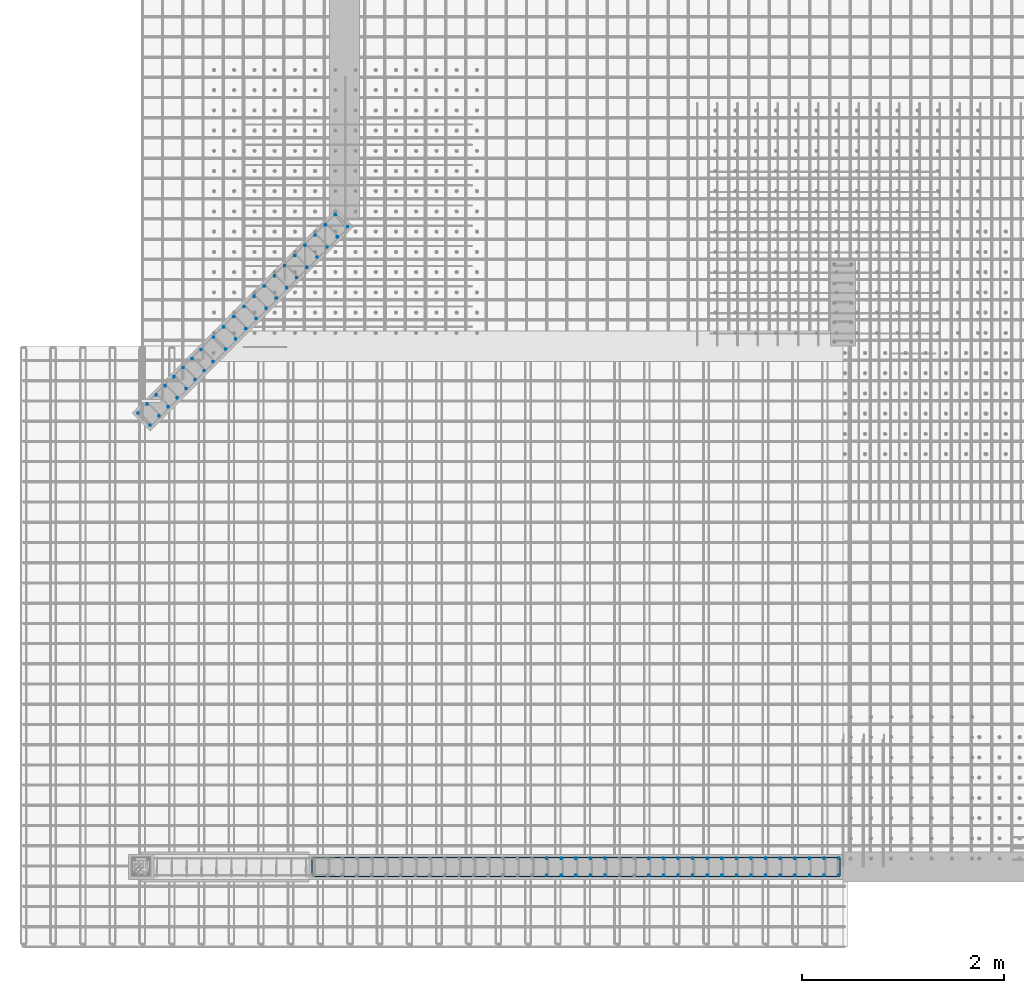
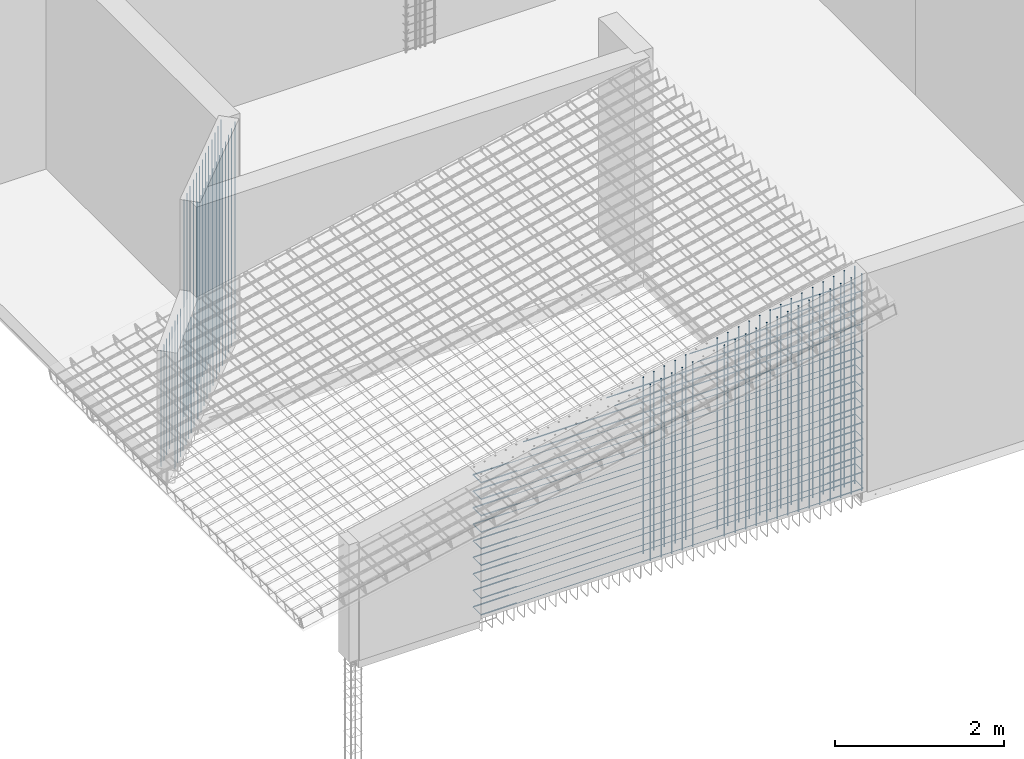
# One storey, part 4 of 17: 27 reinforcing bars.
"""IFC4 building model written with IfcOpenShell, lengths in metres."""

from ifc_helpers import new_model, entity, si_unit, frame, origin_with_axes, place, context, project, spatial, source, transform, mapped, element, save


model = new_model("IFC4")

# Units and contexts
model_context = context("Model", 3, precision=1e-05, world=origin_with_axes())
ifc_project = project(units=[si_unit("LENGTHUNIT", "METRE"), si_unit("AREAUNIT", "SQUARE_METRE"), si_unit("VOLUMEUNIT", "CUBIC_METRE"), si_unit("MASSUNIT", "GRAM", prefix="KILO"), si_unit("TIMEUNIT", "SECOND"), si_unit("PLANEANGLEUNIT", "RADIAN"), si_unit("SOLIDANGLEUNIT", "STERADIAN"), si_unit("THERMODYNAMICTEMPERATUREUNIT", "DEGREE_CELSIUS")], contexts=[model_context])

# Site, building, storey
placement_1 = place(None, origin_with_axes())
site = spatial("IfcSite", under=ifc_project, at=placement_1, Name="Italia", CompositionType="ELEMENT")
building = spatial("IfcBuilding", under=site, at=placement_1, Name="Abitazione", CompositionType="ELEMENT")
storey_placement = place(None, frame((0.0, 0.0, 3.569999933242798), z_axis=(0.0, 0.0, 1.0), x_axis=(1.0, 0.0, 0.0)))
storey = spatial("IfcBuildingStorey", under=building, at=storey_placement, Name="Storey 1", CompositionType="ELEMENT", Elevation=3.569999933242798)

# Reinforcing bars
shared_shape_1 = source(origin_with_axes(), model_context, "Body", "AdvancedSweptSolid", [
    entity("IfcSweptDiskSolid", entity("IfcIndexedPolyCurve", entity("IfcCartesianPointList3D", [[3.11154, 7.24019, 3.57], [3.11154, 7.24019, 6.705]]), [entity("IfcLineIndex", [1, 2])], False), 0.006),
])
placement_2 = place(placement_1, origin_with_axes())
reinforcing_bar_1_placement = place(placement_2, origin_with_axes())
element("IfcReinforcingBar", 1, at=reinforcing_bar_1_placement, inside=storey, BarLength=3.135, CrossSectionArea=0.0001131, NominalDiameter=0.012, context=model_context, shape_type="MappedRepresentation", body=[
    mapped(shared_shape_1, transform((-0.602937, -0.605937, 0.0), x_axis=(1.0, 0.0, 0.0), y_axis=(0.0, 1.0, 0.0), z_axis=(0.0, 0.0, 1.0), scale=1.0)),
    mapped(shared_shape_1, transform((-0.383358, -0.623447, 0.0), x_axis=(1.0, 0.0, 0.0), y_axis=(0.0, 1.0, 0.0), z_axis=(0.0, 0.0, 1.0), scale=1.0)),
    mapped(shared_shape_1, transform((-0.18238, -0.421469, 0.0), x_axis=(1.0, 0.0, 0.0), y_axis=(0.0, 1.0, 0.0), z_axis=(0.0, 0.0, 1.0), scale=1.0)),
    mapped(shared_shape_1, transform((-0.282869, -0.522458, 0.0), x_axis=(1.0, 0.0, 0.0), y_axis=(0.0, 1.0, 0.0), z_axis=(0.0, 0.0, 1.0), scale=1.0)),
    mapped(shared_shape_1, transform((-0.401958, -0.403958, 0.0), x_axis=(1.0, 0.0, 0.0), y_axis=(0.0, 1.0, 0.0), z_axis=(0.0, 0.0, 1.0), scale=1.0)),
    mapped(shared_shape_1, transform((-0.502448, -0.504948, 0.0), x_axis=(1.0, 0.0, 0.0), y_axis=(0.0, 1.0, 0.0), z_axis=(0.0, 0.0, 1.0), scale=1.0)),
    mapped(shared_shape_1, transform((-0.301469, -0.302969, 0.0), x_axis=(1.0, 0.0, 0.0), y_axis=(0.0, 1.0, 0.0), z_axis=(0.0, 0.0, 1.0), scale=1.0)),
    mapped(shared_shape_1, transform((-0.0818901, -0.320479, 0.0), x_axis=(1.0, 0.0, 0.0), y_axis=(0.0, 1.0, 0.0), z_axis=(0.0, 0.0, 1.0), scale=1.0)),
    mapped(shared_shape_1, transform((0.119089, -0.1185, 0.0), x_axis=(1.0, 0.0, 0.0), y_axis=(0.0, 1.0, 0.0), z_axis=(0.0, 0.0, 1.0), scale=1.0)),
    mapped(shared_shape_1, transform((0.0185993, -0.21949, 0.0), x_axis=(1.0, 0.0, 0.0), y_axis=(0.0, 1.0, 0.0), z_axis=(0.0, 0.0, 1.0), scale=1.0)),
    mapped(shared_shape_1, transform((-0.10049, -0.10099, 0.0), x_axis=(1.0, 0.0, 0.0), y_axis=(0.0, 1.0, 0.0), z_axis=(0.0, 0.0, 1.0), scale=1.0)),
    mapped(shared_shape_1, transform((-0.200979, -0.20198, 0.0), x_axis=(1.0, 0.0, 0.0), y_axis=(0.0, 1.0, 0.0), z_axis=(0.0, 0.0, 1.0), scale=1.0)),
    mapped(shared_shape_1, transform((0.0, 0.0, 0.0), x_axis=(1.0, 0.0, 0.0), y_axis=(0.0, 1.0, 0.0), z_axis=(0.0, 0.0, 1.0), scale=1.0)),
    mapped(shared_shape_1, transform((-1.08678, -1.33037, 0.0), x_axis=(1.0, 0.0, 0.0), y_axis=(0.0, 1.0, 0.0), z_axis=(0.0, 0.0, 1.0), scale=1.0)),
    mapped(shared_shape_1, transform((-0.885806, -1.12839, 0.0), x_axis=(1.0, 0.0, 0.0), y_axis=(0.0, 1.0, 0.0), z_axis=(0.0, 0.0, 1.0), scale=1.0)),
    mapped(shared_shape_1, transform((-0.986295, -1.22938, 0.0), x_axis=(1.0, 0.0, 0.0), y_axis=(0.0, 1.0, 0.0), z_axis=(0.0, 0.0, 1.0), scale=1.0)),
    mapped(shared_shape_1, transform((-1.10538, -1.11088, 0.0), x_axis=(1.0, 0.0, 0.0), y_axis=(0.0, 1.0, 0.0), z_axis=(0.0, 0.0, 1.0), scale=1.0)),
    mapped(shared_shape_1, transform((-1.20587, -1.21187, 0.0), x_axis=(1.0, 0.0, 0.0), y_axis=(0.0, 1.0, 0.0), z_axis=(0.0, 0.0, 1.0), scale=1.0)),
    mapped(shared_shape_1, transform((-1.0049, -1.0099, 0.0), x_axis=(1.0, 0.0, 0.0), y_axis=(0.0, 1.0, 0.0), z_axis=(0.0, 0.0, 1.0), scale=1.0)),
    mapped(shared_shape_1, transform((-0.785316, -1.02741, 0.0), x_axis=(1.0, 0.0, 0.0), y_axis=(0.0, 1.0, 0.0), z_axis=(0.0, 0.0, 1.0), scale=1.0)),
    mapped(shared_shape_1, transform((-0.584337, -0.825426, 0.0), x_axis=(1.0, 0.0, 0.0), y_axis=(0.0, 1.0, 0.0), z_axis=(0.0, 0.0, 1.0), scale=1.0)),
    mapped(shared_shape_1, transform((-0.684827, -0.926416, 0.0), x_axis=(1.0, 0.0, 0.0), y_axis=(0.0, 1.0, 0.0), z_axis=(0.0, 0.0, 1.0), scale=1.0)),
    mapped(shared_shape_1, transform((-0.803916, -0.807916, 0.0), x_axis=(1.0, 0.0, 0.0), y_axis=(0.0, 1.0, 0.0), z_axis=(0.0, 0.0, 1.0), scale=1.0)),
    mapped(shared_shape_1, transform((-0.904406, -0.908906, 0.0), x_axis=(1.0, 0.0, 0.0), y_axis=(0.0, 1.0, 0.0), z_axis=(0.0, 0.0, 1.0), scale=1.0)),
    mapped(shared_shape_1, transform((-0.703427, -0.706927, 0.0), x_axis=(1.0, 0.0, 0.0), y_axis=(0.0, 1.0, 0.0), z_axis=(0.0, 0.0, 1.0), scale=1.0)),
    mapped(shared_shape_1, transform((-0.483848, -0.724437, 0.0), x_axis=(1.0, 0.0, 0.0), y_axis=(0.0, 1.0, 0.0), z_axis=(0.0, 0.0, 1.0), scale=1.0)),
])
shared_shape_2 = source(origin_with_axes(), model_context, "Body", "AdvancedSweptSolid", [
    entity("IfcSweptDiskSolid", entity("IfcIndexedPolyCurve", entity("IfcCartesianPointList3D", [[1.78337, 5.90541, 3.57], [1.78337, 5.90541, 5.2453]]), [entity("IfcLineIndex", [1, 2])], False), 0.006),
])
reinforcing_bar_2_placement = place(placement_2, origin_with_axes())
element("IfcReinforcingBar", 2, at=reinforcing_bar_2_placement, inside=storey, BarLength=1.6753, CrossSectionArea=0.0001131, NominalDiameter=0.012, context=model_context, shape_type="MappedRepresentation", body=[
    mapped(shared_shape_2, transform((-0.059195, -0.29767, 0.0), x_axis=(1.0, 0.0, 0.0), y_axis=(0.0, 1.0, 0.0), z_axis=(0.0, 0.0, 1.0), scale=1.0)),
    mapped(shared_shape_2, transform((-0.178284, -0.179171, 0.0), x_axis=(1.0, 0.0, 0.0), y_axis=(0.0, 1.0, 0.0), z_axis=(0.0, 0.0, 1.0), scale=1.0)),
    mapped(shared_shape_2, transform((-0.148337, -0.387256, 0.0), x_axis=(1.0, 0.0, 0.0), y_axis=(0.0, 1.0, 0.0), z_axis=(0.0, 0.0, 1.0), scale=1.0)),
    mapped(shared_shape_2, transform((-0.267426, -0.268757, 0.0), x_axis=(1.0, 0.0, 0.0), y_axis=(0.0, 1.0, 0.0), z_axis=(0.0, 0.0, 1.0), scale=1.0)),
    mapped(shared_shape_2, transform((0.119089, -0.1185, 0.0), x_axis=(1.0, 0.0, 0.0), y_axis=(0.0, 1.0, 0.0), z_axis=(0.0, 0.0, 1.0), scale=1.0)),
    mapped(shared_shape_2, transform((0.0, 0.0, 0.0), x_axis=(1.0, 0.0, 0.0), y_axis=(0.0, 1.0, 0.0), z_axis=(0.0, 0.0, 1.0), scale=1.0)),
    mapped(shared_shape_2, transform((0.029947, -0.208085, 0.0), x_axis=(1.0, 0.0, 0.0), y_axis=(0.0, 1.0, 0.0), z_axis=(0.0, 0.0, 1.0), scale=1.0)),
    mapped(shared_shape_2, transform((-0.0891421, -0.0895853, 0.0), x_axis=(1.0, 0.0, 0.0), y_axis=(0.0, 1.0, 0.0), z_axis=(0.0, 0.0, 1.0), scale=1.0)),
    mapped(shared_shape_2, transform((-0.415763, -0.656013, 0.0), x_axis=(1.0, 0.0, 0.0), y_axis=(0.0, 1.0, 0.0), z_axis=(0.0, 0.0, 1.0), scale=1.0)),
    mapped(shared_shape_2, transform((-0.534852, -0.537513, 0.0), x_axis=(1.0, 0.0, 0.0), y_axis=(0.0, 1.0, 0.0), z_axis=(0.0, 0.0, 1.0), scale=1.0)),
    mapped(shared_shape_2, transform((-0.504905, -0.745598, 0.0), x_axis=(1.0, 0.0, 0.0), y_axis=(0.0, 1.0, 0.0), z_axis=(0.0, 0.0, 1.0), scale=1.0)),
    mapped(shared_shape_2, transform((-0.623994, -0.627099, 0.0), x_axis=(1.0, 0.0, 0.0), y_axis=(0.0, 1.0, 0.0), z_axis=(0.0, 0.0, 1.0), scale=1.0)),
    mapped(shared_shape_2, transform((-0.237479, -0.476842, 0.0), x_axis=(1.0, 0.0, 0.0), y_axis=(0.0, 1.0, 0.0), z_axis=(0.0, 0.0, 1.0), scale=1.0)),
    mapped(shared_shape_2, transform((-0.356568, -0.358342, 0.0), x_axis=(1.0, 0.0, 0.0), y_axis=(0.0, 1.0, 0.0), z_axis=(0.0, 0.0, 1.0), scale=1.0)),
    mapped(shared_shape_2, transform((-0.326621, -0.566427, 0.0), x_axis=(1.0, 0.0, 0.0), y_axis=(0.0, 1.0, 0.0), z_axis=(0.0, 0.0, 1.0), scale=1.0)),
    mapped(shared_shape_2, transform((-0.44571, -0.447927, 0.0), x_axis=(1.0, 0.0, 0.0), y_axis=(0.0, 1.0, 0.0), z_axis=(0.0, 0.0, 1.0), scale=1.0)),
])
shared_shape_3 = source(origin_with_axes(), model_context, "Body", "AdvancedSweptSolid", [
    entity("IfcSweptDiskSolid", entity("IfcIndexedPolyCurve", entity("IfcCartesianPointList3D", [[8.089, 0.874, 3.57], [8.089, 0.874, 6.705]]), [entity("IfcLineIndex", [1, 2])], False), 0.006),
])
reinforcing_bar_3_placement = place(placement_2, origin_with_axes())
element("IfcReinforcingBar", 3, at=reinforcing_bar_3_placement, inside=storey, BarLength=3.135, CrossSectionArea=0.0001131, NominalDiameter=0.012, context=model_context, shape_type="MappedRepresentation", body=[
    mapped(shared_shape_3, transform((0.0, -0.168, 0.0), x_axis=(1.0, 0.0, 0.0), y_axis=(0.0, 1.0, 0.0), z_axis=(0.0, 0.0, 1.0), scale=1.0)),
    mapped(shared_shape_3, transform((0.0, 0.0, 0.0), x_axis=(1.0, 0.0, 0.0), y_axis=(0.0, 1.0, 0.0), z_axis=(0.0, 0.0, 1.0), scale=1.0)),
])
shared_shape_4 = source(origin_with_axes(), model_context, "Body", "AdvancedSweptSolid", [
    entity("IfcSweptDiskSolid", entity("IfcIndexedPolyCurve", entity("IfcCartesianPointList3D", [[7.94461, 0.874, 3.57], [7.94461, 0.874, 6.69101]]), [entity("IfcLineIndex", [1, 2])], False), 0.006),
])
reinforcing_bar_4_placement = place(placement_2, origin_with_axes())
element("IfcReinforcingBar", 4, at=reinforcing_bar_4_placement, inside=storey, BarLength=3.12101, CrossSectionArea=0.0001131, NominalDiameter=0.012, context=model_context, shape_type="MappedRepresentation", body=[
    mapped(shared_shape_4, transform((0.0, -0.168, 0.0), x_axis=(1.0, 0.0, 0.0), y_axis=(0.0, 1.0, 0.0), z_axis=(0.0, 0.0, 1.0), scale=1.0)),
    mapped(shared_shape_4, transform((0.0, 0.0, 0.0), x_axis=(1.0, 0.0, 0.0), y_axis=(0.0, 1.0, 0.0), z_axis=(0.0, 0.0, 1.0), scale=1.0)),
])
shared_shape_5 = source(origin_with_axes(), model_context, "Body", "AdvancedSweptSolid", [
    entity("IfcSweptDiskSolid", entity("IfcIndexedPolyCurve", entity("IfcCartesianPointList3D", [[7.80022, 0.874, 3.57], [7.80022, 0.874, 6.66064]]), [entity("IfcLineIndex", [1, 2])], False), 0.006),
])
reinforcing_bar_5_placement = place(placement_2, origin_with_axes())
element("IfcReinforcingBar", 5, at=reinforcing_bar_5_placement, inside=storey, BarLength=3.09064, CrossSectionArea=0.0001131, NominalDiameter=0.012, context=model_context, shape_type="MappedRepresentation", body=[
    mapped(shared_shape_5, transform((0.0, -0.168, 0.0), x_axis=(1.0, 0.0, 0.0), y_axis=(0.0, 1.0, 0.0), z_axis=(0.0, 0.0, 1.0), scale=1.0)),
    mapped(shared_shape_5, transform((0.0, 0.0, 0.0), x_axis=(1.0, 0.0, 0.0), y_axis=(0.0, 1.0, 0.0), z_axis=(0.0, 0.0, 1.0), scale=1.0)),
])
shared_shape_6 = source(origin_with_axes(), model_context, "Body", "AdvancedSweptSolid", [
    entity("IfcSweptDiskSolid", entity("IfcIndexedPolyCurve", entity("IfcCartesianPointList3D", [[7.65583, 0.874, 3.57], [7.65583, 0.874, 6.63027]]), [entity("IfcLineIndex", [1, 2])], False), 0.006),
])
reinforcing_bar_6_placement = place(placement_2, origin_with_axes())
element("IfcReinforcingBar", 6, at=reinforcing_bar_6_placement, inside=storey, BarLength=3.06027, CrossSectionArea=0.0001131, NominalDiameter=0.012, context=model_context, shape_type="MappedRepresentation", body=[
    mapped(shared_shape_6, transform((0.0, -0.168, 0.0), x_axis=(1.0, 0.0, 0.0), y_axis=(0.0, 1.0, 0.0), z_axis=(0.0, 0.0, 1.0), scale=1.0)),
    mapped(shared_shape_6, transform((0.0, 0.0, 0.0), x_axis=(1.0, 0.0, 0.0), y_axis=(0.0, 1.0, 0.0), z_axis=(0.0, 0.0, 1.0), scale=1.0)),
])
shared_shape_7 = source(origin_with_axes(), model_context, "Body", "AdvancedSweptSolid", [
    entity("IfcSweptDiskSolid", entity("IfcIndexedPolyCurve", entity("IfcCartesianPointList3D", [[7.51144, 0.874, 3.57], [7.51144, 0.874, 6.5999]]), [entity("IfcLineIndex", [1, 2])], False), 0.006),
])
reinforcing_bar_7_placement = place(placement_2, origin_with_axes())
element("IfcReinforcingBar", 7, at=reinforcing_bar_7_placement, inside=storey, BarLength=3.0299, CrossSectionArea=0.0001131, NominalDiameter=0.012, context=model_context, shape_type="MappedRepresentation", body=[
    mapped(shared_shape_7, transform((0.0, -0.168, 0.0), x_axis=(1.0, 0.0, 0.0), y_axis=(0.0, 1.0, 0.0), z_axis=(0.0, 0.0, 1.0), scale=1.0)),
    mapped(shared_shape_7, transform((0.0, 0.0, 0.0), x_axis=(1.0, 0.0, 0.0), y_axis=(0.0, 1.0, 0.0), z_axis=(0.0, 0.0, 1.0), scale=1.0)),
])
shared_shape_8 = source(origin_with_axes(), model_context, "Body", "AdvancedSweptSolid", [
    entity("IfcSweptDiskSolid", entity("IfcIndexedPolyCurve", entity("IfcCartesianPointList3D", [[7.36706, 0.874, 3.57], [7.36706, 0.874, 6.56953]]), [entity("IfcLineIndex", [1, 2])], False), 0.006),
])
reinforcing_bar_8_placement = place(placement_2, origin_with_axes())
element("IfcReinforcingBar", 8, at=reinforcing_bar_8_placement, inside=storey, BarLength=2.99953, CrossSectionArea=0.0001131, NominalDiameter=0.012, context=model_context, shape_type="MappedRepresentation", body=[
    mapped(shared_shape_8, transform((0.0, -0.168, 0.0), x_axis=(1.0, 0.0, 0.0), y_axis=(0.0, 1.0, 0.0), z_axis=(0.0, 0.0, 1.0), scale=1.0)),
    mapped(shared_shape_8, transform((0.0, 0.0, 0.0), x_axis=(1.0, 0.0, 0.0), y_axis=(0.0, 1.0, 0.0), z_axis=(0.0, 0.0, 1.0), scale=1.0)),
])
shared_shape_9 = source(origin_with_axes(), model_context, "Body", "AdvancedSweptSolid", [
    entity("IfcSweptDiskSolid", entity("IfcIndexedPolyCurve", entity("IfcCartesianPointList3D", [[7.22267, 0.874, 3.57], [7.22267, 0.874, 6.53916]]), [entity("IfcLineIndex", [1, 2])], False), 0.006),
])
reinforcing_bar_9_placement = place(placement_2, origin_with_axes())
element("IfcReinforcingBar", 9, at=reinforcing_bar_9_placement, inside=storey, BarLength=2.96916, CrossSectionArea=0.0001131, NominalDiameter=0.012, context=model_context, shape_type="MappedRepresentation", body=[
    mapped(shared_shape_9, transform((0.0, -0.168, 0.0), x_axis=(1.0, 0.0, 0.0), y_axis=(0.0, 1.0, 0.0), z_axis=(0.0, 0.0, 1.0), scale=1.0)),
    mapped(shared_shape_9, transform((0.0, 0.0, 0.0), x_axis=(1.0, 0.0, 0.0), y_axis=(0.0, 1.0, 0.0), z_axis=(0.0, 0.0, 1.0), scale=1.0)),
])
shared_shape_10 = source(origin_with_axes(), model_context, "Body", "AdvancedSweptSolid", [
    entity("IfcSweptDiskSolid", entity("IfcIndexedPolyCurve", entity("IfcCartesianPointList3D", [[7.07828, 0.874, 3.57], [7.07828, 0.874, 6.50879]]), [entity("IfcLineIndex", [1, 2])], False), 0.006),
])
reinforcing_bar_10_placement = place(placement_2, origin_with_axes())
element("IfcReinforcingBar", 10, at=reinforcing_bar_10_placement, inside=storey, BarLength=2.93879, CrossSectionArea=0.0001131, NominalDiameter=0.012, context=model_context, shape_type="MappedRepresentation", body=[
    mapped(shared_shape_10, transform((0.0, -0.168, 0.0), x_axis=(1.0, 0.0, 0.0), y_axis=(0.0, 1.0, 0.0), z_axis=(0.0, 0.0, 1.0), scale=1.0)),
    mapped(shared_shape_10, transform((0.0, 0.0, 0.0), x_axis=(1.0, 0.0, 0.0), y_axis=(0.0, 1.0, 0.0), z_axis=(0.0, 0.0, 1.0), scale=1.0)),
])
shared_shape_11 = source(origin_with_axes(), model_context, "Body", "AdvancedSweptSolid", [
    entity("IfcSweptDiskSolid", entity("IfcIndexedPolyCurve", entity("IfcCartesianPointList3D", [[6.93389, 0.874, 3.57], [6.93389, 0.874, 6.47842]]), [entity("IfcLineIndex", [1, 2])], False), 0.006),
])
reinforcing_bar_11_placement = place(placement_2, origin_with_axes())
element("IfcReinforcingBar", 11, at=reinforcing_bar_11_placement, inside=storey, BarLength=2.90842, CrossSectionArea=0.0001131, NominalDiameter=0.012, context=model_context, shape_type="MappedRepresentation", body=[
    mapped(shared_shape_11, transform((0.0, -0.168, 0.0), x_axis=(1.0, 0.0, 0.0), y_axis=(0.0, 1.0, 0.0), z_axis=(0.0, 0.0, 1.0), scale=1.0)),
    mapped(shared_shape_11, transform((0.0, 0.0, 0.0), x_axis=(1.0, 0.0, 0.0), y_axis=(0.0, 1.0, 0.0), z_axis=(0.0, 0.0, 1.0), scale=1.0)),
])
shared_shape_12 = source(origin_with_axes(), model_context, "Body", "AdvancedSweptSolid", [
    entity("IfcSweptDiskSolid", entity("IfcIndexedPolyCurve", entity("IfcCartesianPointList3D", [[6.7895, 0.874, 3.57], [6.7895, 0.874, 6.44805]]), [entity("IfcLineIndex", [1, 2])], False), 0.006),
])
reinforcing_bar_12_placement = place(placement_2, origin_with_axes())
element("IfcReinforcingBar", 12, at=reinforcing_bar_12_placement, inside=storey, BarLength=2.87805, CrossSectionArea=0.0001131, NominalDiameter=0.012, context=model_context, shape_type="MappedRepresentation", body=[
    mapped(shared_shape_12, transform((0.0, -0.168, 0.0), x_axis=(1.0, 0.0, 0.0), y_axis=(0.0, 1.0, 0.0), z_axis=(0.0, 0.0, 1.0), scale=1.0)),
    mapped(shared_shape_12, transform((0.0, 0.0, 0.0), x_axis=(1.0, 0.0, 0.0), y_axis=(0.0, 1.0, 0.0), z_axis=(0.0, 0.0, 1.0), scale=1.0)),
])
shared_shape_13 = source(origin_with_axes(), model_context, "Body", "AdvancedSweptSolid", [
    entity("IfcSweptDiskSolid", entity("IfcIndexedPolyCurve", entity("IfcCartesianPointList3D", [[6.64511, 0.874, 3.57], [6.64511, 0.874, 6.41768]]), [entity("IfcLineIndex", [1, 2])], False), 0.006),
])
reinforcing_bar_13_placement = place(placement_2, origin_with_axes())
element("IfcReinforcingBar", 13, at=reinforcing_bar_13_placement, inside=storey, BarLength=2.84768, CrossSectionArea=0.0001131, NominalDiameter=0.012, context=model_context, shape_type="MappedRepresentation", body=[
    mapped(shared_shape_13, transform((0.0, -0.168, 0.0), x_axis=(1.0, 0.0, 0.0), y_axis=(0.0, 1.0, 0.0), z_axis=(0.0, 0.0, 1.0), scale=1.0)),
    mapped(shared_shape_13, transform((0.0, 0.0, 0.0), x_axis=(1.0, 0.0, 0.0), y_axis=(0.0, 1.0, 0.0), z_axis=(0.0, 0.0, 1.0), scale=1.0)),
])
shared_shape_14 = source(origin_with_axes(), model_context, "Body", "AdvancedSweptSolid", [
    entity("IfcSweptDiskSolid", entity("IfcIndexedPolyCurve", entity("IfcCartesianPointList3D", [[6.50072, 0.874, 3.57], [6.50072, 0.874, 6.38731]]), [entity("IfcLineIndex", [1, 2])], False), 0.006),
])
reinforcing_bar_14_placement = place(placement_2, origin_with_axes())
element("IfcReinforcingBar", 14, at=reinforcing_bar_14_placement, inside=storey, BarLength=2.81731, CrossSectionArea=0.0001131, NominalDiameter=0.012, context=model_context, shape_type="MappedRepresentation", body=[
    mapped(shared_shape_14, transform((0.0, -0.168, 0.0), x_axis=(1.0, 0.0, 0.0), y_axis=(0.0, 1.0, 0.0), z_axis=(0.0, 0.0, 1.0), scale=1.0)),
    mapped(shared_shape_14, transform((0.0, 0.0, 0.0), x_axis=(1.0, 0.0, 0.0), y_axis=(0.0, 1.0, 0.0), z_axis=(0.0, 0.0, 1.0), scale=1.0)),
])
shared_shape_15 = source(origin_with_axes(), model_context, "Body", "AdvancedSweptSolid", [
    entity("IfcSweptDiskSolid", entity("IfcIndexedPolyCurve", entity("IfcCartesianPointList3D", [[6.35633, 0.874, 3.57], [6.35633, 0.874, 6.35694]]), [entity("IfcLineIndex", [1, 2])], False), 0.006),
])
reinforcing_bar_15_placement = place(placement_2, origin_with_axes())
element("IfcReinforcingBar", 15, at=reinforcing_bar_15_placement, inside=storey, BarLength=2.78694, CrossSectionArea=0.0001131, NominalDiameter=0.012, context=model_context, shape_type="MappedRepresentation", body=[
    mapped(shared_shape_15, transform((0.0, -0.168, 0.0), x_axis=(1.0, 0.0, 0.0), y_axis=(0.0, 1.0, 0.0), z_axis=(0.0, 0.0, 1.0), scale=1.0)),
    mapped(shared_shape_15, transform((0.0, 0.0, 0.0), x_axis=(1.0, 0.0, 0.0), y_axis=(0.0, 1.0, 0.0), z_axis=(0.0, 0.0, 1.0), scale=1.0)),
])
shared_shape_16 = source(origin_with_axes(), model_context, "Body", "AdvancedSweptSolid", [
    entity("IfcSweptDiskSolid", entity("IfcIndexedPolyCurve", entity("IfcCartesianPointList3D", [[6.21194, 0.874, 3.57], [6.21194, 0.874, 6.32657]]), [entity("IfcLineIndex", [1, 2])], False), 0.006),
])
reinforcing_bar_16_placement = place(placement_2, origin_with_axes())
element("IfcReinforcingBar", 16, at=reinforcing_bar_16_placement, inside=storey, BarLength=2.75657, CrossSectionArea=0.0001131, NominalDiameter=0.012, context=model_context, shape_type="MappedRepresentation", body=[
    mapped(shared_shape_16, transform((0.0, -0.168, 0.0), x_axis=(1.0, 0.0, 0.0), y_axis=(0.0, 1.0, 0.0), z_axis=(0.0, 0.0, 1.0), scale=1.0)),
    mapped(shared_shape_16, transform((0.0, 0.0, 0.0), x_axis=(1.0, 0.0, 0.0), y_axis=(0.0, 1.0, 0.0), z_axis=(0.0, 0.0, 1.0), scale=1.0)),
])
shared_shape_17 = source(origin_with_axes(), model_context, "Body", "AdvancedSweptSolid", [
    entity("IfcSweptDiskSolid", entity("IfcIndexedPolyCurve", entity("IfcCartesianPointList3D", [[5.77878, 0.874, 3.57], [5.77878, 0.874, 6.23546]]), [entity("IfcLineIndex", [1, 2])], False), 0.006),
])
reinforcing_bar_17_placement = place(placement_2, origin_with_axes())
element("IfcReinforcingBar", 17, at=reinforcing_bar_17_placement, inside=storey, BarLength=2.66546, CrossSectionArea=0.0001131, NominalDiameter=0.012, context=model_context, shape_type="MappedRepresentation", body=[
    mapped(shared_shape_17, transform((0.0, -0.168, 0.0), x_axis=(1.0, 0.0, 0.0), y_axis=(0.0, 1.0, 0.0), z_axis=(0.0, 0.0, 1.0), scale=1.0)),
    mapped(shared_shape_17, transform((0.0, 0.0, 0.0), x_axis=(1.0, 0.0, 0.0), y_axis=(0.0, 1.0, 0.0), z_axis=(0.0, 0.0, 1.0), scale=1.0)),
])
shared_shape_18 = source(origin_with_axes(), model_context, "Body", "AdvancedSweptSolid", [
    entity("IfcSweptDiskSolid", entity("IfcIndexedPolyCurve", entity("IfcCartesianPointList3D", [[5.63439, 0.874, 3.57], [5.63439, 0.874, 6.20509]]), [entity("IfcLineIndex", [1, 2])], False), 0.006),
])
reinforcing_bar_18_placement = place(placement_2, origin_with_axes())
element("IfcReinforcingBar", 18, at=reinforcing_bar_18_placement, inside=storey, BarLength=2.63509, CrossSectionArea=0.0001131, NominalDiameter=0.012, context=model_context, shape_type="MappedRepresentation", body=[
    mapped(shared_shape_18, transform((0.0, -0.168, 0.0), x_axis=(1.0, 0.0, 0.0), y_axis=(0.0, 1.0, 0.0), z_axis=(0.0, 0.0, 1.0), scale=1.0)),
    mapped(shared_shape_18, transform((0.0, 0.0, 0.0), x_axis=(1.0, 0.0, 0.0), y_axis=(0.0, 1.0, 0.0), z_axis=(0.0, 0.0, 1.0), scale=1.0)),
])
shared_shape_19 = source(origin_with_axes(), model_context, "Body", "AdvancedSweptSolid", [
    entity("IfcSweptDiskSolid", entity("IfcIndexedPolyCurve", entity("IfcCartesianPointList3D", [[5.49, 0.874, 3.57], [5.49, 0.874, 6.17472]]), [entity("IfcLineIndex", [1, 2])], False), 0.006),
])
reinforcing_bar_19_placement = place(placement_2, origin_with_axes())
element("IfcReinforcingBar", 19, at=reinforcing_bar_19_placement, inside=storey, BarLength=2.60472, CrossSectionArea=0.0001131, NominalDiameter=0.012, context=model_context, shape_type="MappedRepresentation", body=[
    mapped(shared_shape_19, transform((0.0, -0.168, 0.0), x_axis=(1.0, 0.0, 0.0), y_axis=(0.0, 1.0, 0.0), z_axis=(0.0, 0.0, 1.0), scale=1.0)),
    mapped(shared_shape_19, transform((0.0, 0.0, 0.0), x_axis=(1.0, 0.0, 0.0), y_axis=(0.0, 1.0, 0.0), z_axis=(0.0, 0.0, 1.0), scale=1.0)),
])
shared_shape_20 = source(origin_with_axes(), model_context, "Body", "AdvancedSweptSolid", [
    entity("IfcSweptDiskSolid", entity("IfcIndexedPolyCurve", entity("IfcCartesianPointList3D", [[5.34561, 0.874, 3.57], [5.34561, 0.874, 6.14435]]), [entity("IfcLineIndex", [1, 2])], False), 0.006),
])
reinforcing_bar_20_placement = place(placement_2, origin_with_axes())
element("IfcReinforcingBar", 20, at=reinforcing_bar_20_placement, inside=storey, BarLength=2.57435, CrossSectionArea=0.0001131, NominalDiameter=0.012, context=model_context, shape_type="MappedRepresentation", body=[
    mapped(shared_shape_20, transform((0.0, -0.168, 0.0), x_axis=(1.0, 0.0, 0.0), y_axis=(0.0, 1.0, 0.0), z_axis=(0.0, 0.0, 1.0), scale=1.0)),
    mapped(shared_shape_20, transform((0.0, 0.0, 0.0), x_axis=(1.0, 0.0, 0.0), y_axis=(0.0, 1.0, 0.0), z_axis=(0.0, 0.0, 1.0), scale=1.0)),
])
shared_shape_21 = source(origin_with_axes(), model_context, "Body", "AdvancedSweptSolid", [
    entity("IfcSweptDiskSolid", entity("IfcIndexedPolyCurve", entity("IfcCartesianPointList3D", [[5.20122, 0.874, 3.57], [5.20122, 0.874, 6.11398]]), [entity("IfcLineIndex", [1, 2])], False), 0.006),
])
reinforcing_bar_21_placement = place(placement_2, origin_with_axes())
element("IfcReinforcingBar", 21, at=reinforcing_bar_21_placement, inside=storey, BarLength=2.54398, CrossSectionArea=0.0001131, NominalDiameter=0.012, context=model_context, shape_type="MappedRepresentation", body=[
    mapped(shared_shape_21, transform((0.0, -0.168, 0.0), x_axis=(1.0, 0.0, 0.0), y_axis=(0.0, 1.0, 0.0), z_axis=(0.0, 0.0, 1.0), scale=1.0)),
    mapped(shared_shape_21, transform((0.0, 0.0, 0.0), x_axis=(1.0, 0.0, 0.0), y_axis=(0.0, 1.0, 0.0), z_axis=(0.0, 0.0, 1.0), scale=1.0)),
])
shared_shape_22 = source(origin_with_axes(), model_context, "Body", "AdvancedSweptSolid", [
    entity("IfcSweptDiskSolid", entity("IfcIndexedPolyCurve", entity("IfcCartesianPointList3D", [[8.1, 0.695, 3.6], [2.88, 0.695, 3.6]]), [entity("IfcLineIndex", [1, 2])], False), 0.005),
])
reinforcing_bar_22_placement = place(placement_2, origin_with_axes())
element("IfcReinforcingBar", 22, at=reinforcing_bar_22_placement, inside=storey, BarLength=5.22, CrossSectionArea=7.854e-05, NominalDiameter=0.01, context=model_context, shape_type="MappedRepresentation", body=[
    mapped(shared_shape_22, transform((0.0, 0.0, 0.953846), x_axis=(1.0, 0.0, 0.0), y_axis=(0.0, 1.0, 0.0), z_axis=(0.0, 0.0, 1.0), scale=1.0)),
    mapped(shared_shape_22, transform((10.98, 1.58, 0.0), x_axis=(-1.0, 0.0, 0.0), y_axis=(0.0, -1.0, 0.0), z_axis=(0.0, 0.0, 1.0), scale=1.0)),
    mapped(shared_shape_22, transform((0.0, 0.0, 1.66923), x_axis=(1.0, 0.0, 0.0), y_axis=(0.0, 1.0, 0.0), z_axis=(0.0, 0.0, 1.0), scale=1.0)),
    mapped(shared_shape_22, transform((0.0, 0.0, 0.476923), x_axis=(1.0, 0.0, 0.0), y_axis=(0.0, 1.0, 0.0), z_axis=(0.0, 0.0, 1.0), scale=1.0)),
    mapped(shared_shape_22, transform((0.0, 0.0, 1.90769), x_axis=(1.0, 0.0, 0.0), y_axis=(0.0, 1.0, 0.0), z_axis=(0.0, 0.0, 1.0), scale=1.0)),
    mapped(shared_shape_22, transform((0.0, 0.0, 0.715384), x_axis=(1.0, 0.0, 0.0), y_axis=(0.0, 1.0, 0.0), z_axis=(0.0, 0.0, 1.0), scale=1.0)),
    mapped(shared_shape_22, transform((0.0, 0.0, 1.19231), x_axis=(1.0, 0.0, 0.0), y_axis=(0.0, 1.0, 0.0), z_axis=(0.0, 0.0, 1.0), scale=1.0)),
    mapped(shared_shape_22, transform((0.0, 0.0, 0.0), x_axis=(1.0, 0.0, 0.0), y_axis=(0.0, 1.0, 0.0), z_axis=(0.0, 0.0, 1.0), scale=1.0)),
    mapped(shared_shape_22, transform((10.98, 1.58, 0.238461), x_axis=(-1.0, 0.0, 0.0), y_axis=(0.0, -1.0, 0.0), z_axis=(0.0, 0.0, 1.0), scale=1.0)),
    mapped(shared_shape_22, transform((0.0, 0.0, 1.43077), x_axis=(1.0, 0.0, 0.0), y_axis=(0.0, 1.0, 0.0), z_axis=(0.0, 0.0, 1.0), scale=1.0)),
    mapped(shared_shape_22, transform((0.0, 0.0, 0.238461), x_axis=(1.0, 0.0, 0.0), y_axis=(0.0, 1.0, 0.0), z_axis=(0.0, 0.0, 1.0), scale=1.0)),
    mapped(shared_shape_22, transform((10.98, 1.58, 0.953846), x_axis=(-1.0, 0.0, 0.0), y_axis=(0.0, -1.0, 0.0), z_axis=(0.0, 0.0, 1.0), scale=1.0)),
    mapped(shared_shape_22, transform((10.98, 1.58, 1.19231), x_axis=(-1.0, 0.0, 0.0), y_axis=(0.0, -1.0, 0.0), z_axis=(0.0, 0.0, 1.0), scale=1.0)),
    mapped(shared_shape_22, transform((10.98, 1.58, 1.90769), x_axis=(-1.0, 0.0, 0.0), y_axis=(0.0, -1.0, 0.0), z_axis=(0.0, 0.0, 1.0), scale=1.0)),
    mapped(shared_shape_22, transform((10.98, 1.58, 0.715384), x_axis=(-1.0, 0.0, 0.0), y_axis=(0.0, -1.0, 0.0), z_axis=(0.0, 0.0, 1.0), scale=1.0)),
    mapped(shared_shape_22, transform((10.98, 1.58, 1.66923), x_axis=(-1.0, 0.0, 0.0), y_axis=(0.0, -1.0, 0.0), z_axis=(0.0, 0.0, 1.0), scale=1.0)),
    mapped(shared_shape_22, transform((10.98, 1.58, 0.476923), x_axis=(-1.0, 0.0, 0.0), y_axis=(0.0, -1.0, 0.0), z_axis=(0.0, 0.0, 1.0), scale=1.0)),
    mapped(shared_shape_22, transform((10.98, 1.58, 1.43077), x_axis=(-1.0, 0.0, 0.0), y_axis=(0.0, -1.0, 0.0), z_axis=(0.0, 0.0, 1.0), scale=1.0)),
])
shared_shape_23 = source(origin_with_axes(), model_context, "Body", "AdvancedSweptSolid", [
    entity("IfcSweptDiskSolid", entity("IfcIndexedPolyCurve", entity("IfcCartesianPointList3D", [[7.61, 0.885, 3.61], [8.09, 0.885, 3.61], [8.09383, 0.884239, 3.61], [8.09707, 0.882071, 3.61], [8.09924, 0.878827, 3.61], [8.1, 0.875, 3.61], [8.1, 0.705, 3.61], [8.09924, 0.701173, 3.61], [8.09707, 0.697929, 3.61], [8.09383, 0.695761, 3.61], [8.09, 0.695, 3.61], [7.61, 0.695, 3.61]]), [entity("IfcLineIndex", [1, 2]), entity("IfcLineIndex", [2, 3]), entity("IfcLineIndex", [3, 4]), entity("IfcLineIndex", [4, 5]), entity("IfcLineIndex", [5, 6]), entity("IfcLineIndex", [6, 7]), entity("IfcLineIndex", [7, 8]), entity("IfcLineIndex", [8, 9]), entity("IfcLineIndex", [9, 10]), entity("IfcLineIndex", [10, 11]), entity("IfcLineIndex", [11, 12])], False), 0.005),
])
reinforcing_bar_23_placement = place(placement_2, origin_with_axes())
element("IfcReinforcingBar", 23, at=reinforcing_bar_23_placement, inside=storey, BarLength=1.16121, CrossSectionArea=7.854e-05, NominalDiameter=0.01, context=model_context, shape_type="MappedRepresentation", body=[
    mapped(shared_shape_23, transform((0.0, 0.0, 0.953846), x_axis=(1.0, 0.0, 0.0), y_axis=(0.0, 1.0, 0.0), z_axis=(0.0, 0.0, 1.0), scale=1.0)),
    mapped(shared_shape_23, transform((10.98, 1.58, 0.0), x_axis=(-1.0, 0.0, 0.0), y_axis=(0.0, -1.0, 0.0), z_axis=(0.0, 0.0, 1.0), scale=1.0)),
    mapped(shared_shape_23, transform((0.0, 0.0, 1.66923), x_axis=(1.0, 0.0, 0.0), y_axis=(0.0, 1.0, 0.0), z_axis=(0.0, 0.0, 1.0), scale=1.0)),
    mapped(shared_shape_23, transform((0.0, 0.0, 0.476923), x_axis=(1.0, 0.0, 0.0), y_axis=(0.0, 1.0, 0.0), z_axis=(0.0, 0.0, 1.0), scale=1.0)),
    mapped(shared_shape_23, transform((0.0, 0.0, 1.90769), x_axis=(1.0, 0.0, 0.0), y_axis=(0.0, 1.0, 0.0), z_axis=(0.0, 0.0, 1.0), scale=1.0)),
    mapped(shared_shape_23, transform((0.0, 0.0, 0.715385), x_axis=(1.0, 0.0, 0.0), y_axis=(0.0, 1.0, 0.0), z_axis=(0.0, 0.0, 1.0), scale=1.0)),
    mapped(shared_shape_23, transform((0.0, 0.0, 1.19231), x_axis=(1.0, 0.0, 0.0), y_axis=(0.0, 1.0, 0.0), z_axis=(0.0, 0.0, 1.0), scale=1.0)),
    mapped(shared_shape_23, transform((0.0, 0.0, 0.0), x_axis=(1.0, 0.0, 0.0), y_axis=(0.0, 1.0, 0.0), z_axis=(0.0, 0.0, 1.0), scale=1.0)),
    mapped(shared_shape_23, transform((10.98, 1.58, 0.238461), x_axis=(-1.0, 0.0, 0.0), y_axis=(0.0, -1.0, 0.0), z_axis=(0.0, 0.0, 1.0), scale=1.0)),
    mapped(shared_shape_23, transform((0.0, 0.0, 1.43077), x_axis=(1.0, 0.0, 0.0), y_axis=(0.0, 1.0, 0.0), z_axis=(0.0, 0.0, 1.0), scale=1.0)),
    mapped(shared_shape_23, transform((0.0, 0.0, 0.238461), x_axis=(1.0, 0.0, 0.0), y_axis=(0.0, 1.0, 0.0), z_axis=(0.0, 0.0, 1.0), scale=1.0)),
    mapped(shared_shape_23, transform((10.98, 1.58, 0.953846), x_axis=(-1.0, 0.0, 0.0), y_axis=(0.0, -1.0, 0.0), z_axis=(0.0, 0.0, 1.0), scale=1.0)),
    mapped(shared_shape_23, transform((10.98, 1.58, 1.19231), x_axis=(-1.0, 0.0, 0.0), y_axis=(0.0, -1.0, 0.0), z_axis=(0.0, 0.0, 1.0), scale=1.0)),
    mapped(shared_shape_23, transform((10.98, 1.58, 1.90769), x_axis=(-1.0, 0.0, 0.0), y_axis=(0.0, -1.0, 0.0), z_axis=(0.0, 0.0, 1.0), scale=1.0)),
    mapped(shared_shape_23, transform((10.98, 1.58, 0.715385), x_axis=(-1.0, 0.0, 0.0), y_axis=(0.0, -1.0, 0.0), z_axis=(0.0, 0.0, 1.0), scale=1.0)),
    mapped(shared_shape_23, transform((10.98, 1.58, 1.66923), x_axis=(-1.0, 0.0, 0.0), y_axis=(0.0, -1.0, 0.0), z_axis=(0.0, 0.0, 1.0), scale=1.0)),
    mapped(shared_shape_23, transform((10.98, 1.58, 0.476923), x_axis=(-1.0, 0.0, 0.0), y_axis=(0.0, -1.0, 0.0), z_axis=(0.0, 0.0, 1.0), scale=1.0)),
    mapped(shared_shape_23, transform((10.98, 1.58, 1.43077), x_axis=(-1.0, 0.0, 0.0), y_axis=(0.0, -1.0, 0.0), z_axis=(0.0, 0.0, 1.0), scale=1.0)),
])
shared_shape_24 = source(origin_with_axes(), model_context, "Body", "AdvancedSweptSolid", [
    entity("IfcSweptDiskSolid", entity("IfcIndexedPolyCurve", entity("IfcCartesianPointList3D", [[8.1, 0.695, 5.74615], [3.57387, 0.695, 5.74615]]), [entity("IfcLineIndex", [1, 2])], False), 0.005),
])
reinforcing_bar_24_placement = place(placement_2, origin_with_axes())
element("IfcReinforcingBar", 24, at=reinforcing_bar_24_placement, inside=storey, BarLength=4.52613, CrossSectionArea=7.854e-05, NominalDiameter=0.01, context=model_context, shape_type="MappedRepresentation", body=[
    mapped(shared_shape_24, transform((11.6739, 1.58, 0.0), x_axis=(-1.0, 0.0, 0.0), y_axis=(0.0, -1.0, 0.0), z_axis=(0.0, 0.0, 1.0), scale=1.0)),
    mapped(shared_shape_24, transform((0.0, 0.0, 0.0), x_axis=(1.0, 0.0, 0.0), y_axis=(0.0, 1.0, 0.0), z_axis=(0.0, 0.0, 1.0), scale=1.0)),
])
shared_shape_25 = source(origin_with_axes(), model_context, "Body", "AdvancedSweptSolid", [
    entity("IfcSweptDiskSolid", entity("IfcIndexedPolyCurve", entity("IfcCartesianPointList3D", [[8.1, 0.695, 5.98462], [4.70761, 0.695, 5.98462]]), [entity("IfcLineIndex", [1, 2])], False), 0.005),
])
reinforcing_bar_25_placement = place(placement_2, origin_with_axes())
element("IfcReinforcingBar", 25, at=reinforcing_bar_25_placement, inside=storey, BarLength=3.39239, CrossSectionArea=7.854e-05, NominalDiameter=0.01, context=model_context, shape_type="MappedRepresentation", body=[
    mapped(shared_shape_25, transform((12.8076, 1.58, 0.0), x_axis=(-1.0, 0.0, 0.0), y_axis=(0.0, -1.0, 0.0), z_axis=(0.0, 0.0, 1.0), scale=1.0)),
    mapped(shared_shape_25, transform((0.0, 0.0, 0.0), x_axis=(1.0, 0.0, 0.0), y_axis=(0.0, 1.0, 0.0), z_axis=(0.0, 0.0, 1.0), scale=1.0)),
])
shared_shape_26 = source(origin_with_axes(), model_context, "Body", "AdvancedSweptSolid", [
    entity("IfcSweptDiskSolid", entity("IfcIndexedPolyCurve", entity("IfcCartesianPointList3D", [[8.1, 0.695, 6.22308], [5.84135, 0.695, 6.22308]]), [entity("IfcLineIndex", [1, 2])], False), 0.005),
])
reinforcing_bar_26_placement = place(placement_2, origin_with_axes())
element("IfcReinforcingBar", 26, at=reinforcing_bar_26_placement, inside=storey, BarLength=2.25865, CrossSectionArea=7.854e-05, NominalDiameter=0.01, context=model_context, shape_type="MappedRepresentation", body=[
    mapped(shared_shape_26, transform((13.9414, 1.58, 0.0), x_axis=(-1.0, 0.0, 0.0), y_axis=(0.0, -1.0, 0.0), z_axis=(0.0, 0.0, 1.0), scale=1.0)),
    mapped(shared_shape_26, transform((0.0, 0.0, 0.0), x_axis=(1.0, 0.0, 0.0), y_axis=(0.0, 1.0, 0.0), z_axis=(0.0, 0.0, 1.0), scale=1.0)),
])
shared_shape_27 = source(origin_with_axes(), model_context, "Body", "AdvancedSweptSolid", [
    entity("IfcSweptDiskSolid", entity("IfcIndexedPolyCurve", entity("IfcCartesianPointList3D", [[8.1, 0.695, 6.46154], [6.97509, 0.695, 6.46154]]), [entity("IfcLineIndex", [1, 2])], False), 0.005),
])
reinforcing_bar_27_placement = place(placement_2, origin_with_axes())
element("IfcReinforcingBar", 27, at=reinforcing_bar_27_placement, inside=storey, BarLength=1.12491, CrossSectionArea=7.854e-05, NominalDiameter=0.01, context=model_context, shape_type="MappedRepresentation", body=[
    mapped(shared_shape_27, transform((15.0751, 1.58, 0.0), x_axis=(-1.0, 0.0, 0.0), y_axis=(0.0, -1.0, 0.0), z_axis=(0.0, 0.0, 1.0), scale=1.0)),
    mapped(shared_shape_27, transform((0.0, 0.0, 0.0), x_axis=(1.0, 0.0, 0.0), y_axis=(0.0, 1.0, 0.0), z_axis=(0.0, 0.0, 1.0), scale=1.0)),
])

save(model, "model.ifc")
